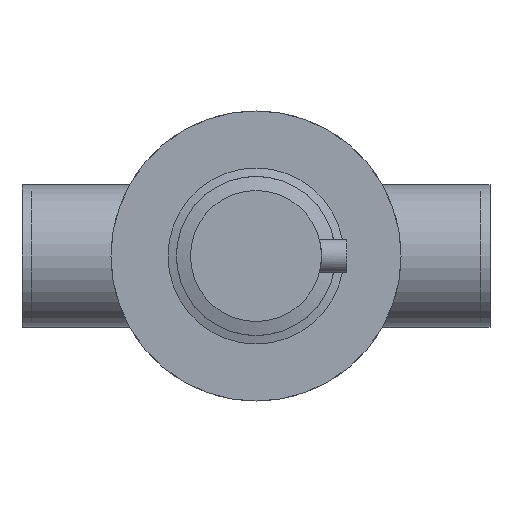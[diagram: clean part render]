
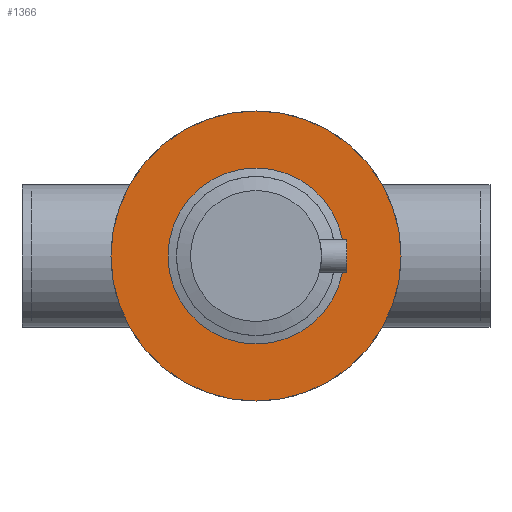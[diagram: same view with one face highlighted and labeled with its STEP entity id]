
A CAD part, front view. The second image highlights one B-rep face of the part: STEP entity #1366.
In plain terms, the highlighted planar face has unit normal (0, -1, 0).
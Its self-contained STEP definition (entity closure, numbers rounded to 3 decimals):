
#91=FACE_BOUND('',#318,.T.);
#121=PLANE('',#1650);
#208=FACE_OUTER_BOUND('',#317,.T.);
#317=EDGE_LOOP('',(#1165,#1166));
#318=EDGE_LOOP('',(#1167,#1168));
#528=CIRCLE('',#1648,42.5);
#529=CIRCLE('',#1649,42.5);
#530=CIRCLE('',#1651,77.5);
#531=CIRCLE('',#1652,77.5);
#665=VERTEX_POINT('',#2551);
#666=VERTEX_POINT('',#2553);
#667=VERTEX_POINT('',#2557);
#668=VERTEX_POINT('',#2558);
#840=EDGE_CURVE('',#666,#665,#528,.T.);
#841=EDGE_CURVE('',#665,#666,#529,.T.);
#842=EDGE_CURVE('',#667,#668,#530,.T.);
#843=EDGE_CURVE('',#668,#667,#531,.T.);
#1165=ORIENTED_EDGE('',*,*,#842,.F.);
#1166=ORIENTED_EDGE('',*,*,#843,.F.);
#1167=ORIENTED_EDGE('',*,*,#840,.T.);
#1168=ORIENTED_EDGE('',*,*,#841,.T.);
#1366=ADVANCED_FACE('',(#208,#91),#121,.F.);
#1648=AXIS2_PLACEMENT_3D('',#2554,#2098,#2099);
#1649=AXIS2_PLACEMENT_3D('',#2555,#2100,#2101);
#1650=AXIS2_PLACEMENT_3D('',#2556,#2102,#2103);
#1651=AXIS2_PLACEMENT_3D('',#2559,#2104,#2105);
#1652=AXIS2_PLACEMENT_3D('',#2560,#2106,#2107);
#2098=DIRECTION('center_axis',(0.,1.,0.));
#2099=DIRECTION('ref_axis',(1.,0.,0.));
#2100=DIRECTION('center_axis',(0.,1.,0.));
#2101=DIRECTION('ref_axis',(1.,0.,0.));
#2102=DIRECTION('center_axis',(0.,1.,0.));
#2103=DIRECTION('ref_axis',(0.,0.,1.));
#2104=DIRECTION('center_axis',(0.,1.,0.));
#2105=DIRECTION('ref_axis',(-1.,0.,0.));
#2106=DIRECTION('center_axis',(0.,1.,0.));
#2107=DIRECTION('ref_axis',(-1.,0.,0.));
#2551=CARTESIAN_POINT('',(42.5,-14.9,0.));
#2553=CARTESIAN_POINT('',(-42.5,-14.9,0.));
#2554=CARTESIAN_POINT('Origin',(0.,-14.9,0.));
#2555=CARTESIAN_POINT('Origin',(0.,-14.9,0.));
#2556=CARTESIAN_POINT('Origin',(-42.5,-14.9,0.));
#2557=CARTESIAN_POINT('',(-77.5,-14.9,0.));
#2558=CARTESIAN_POINT('',(77.5,-14.9,0.));
#2559=CARTESIAN_POINT('Origin',(0.,-14.9,0.));
#2560=CARTESIAN_POINT('Origin',(0.,-14.9,0.));
